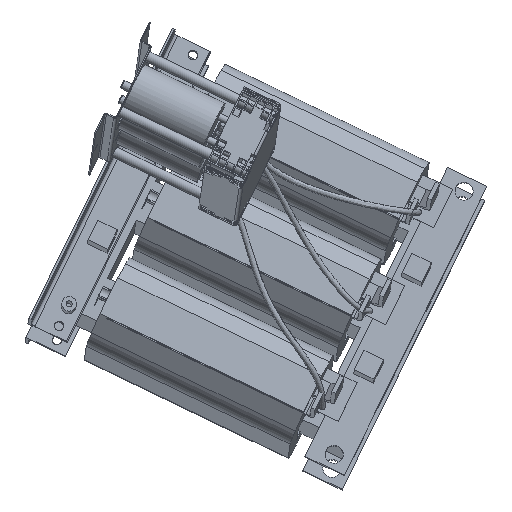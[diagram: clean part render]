
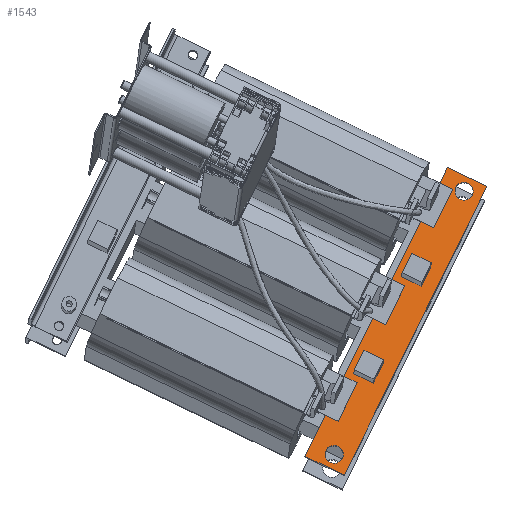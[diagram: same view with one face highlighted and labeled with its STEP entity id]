
A CAD part, front view. The second image highlights one B-rep face of the part: STEP entity #1543.
In plain terms, the highlighted planar face has unit normal (0.028, -0.982, 0.185).
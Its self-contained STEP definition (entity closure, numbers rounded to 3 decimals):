
#450=CARTESIAN_POINT('',(-327.927,-256.373,-188.167));
#451=VERTEX_POINT('',#450);
#458=CARTESIAN_POINT('',(-314.857,-251.02,-161.699));
#459=VERTEX_POINT('',#458);
#460=CARTESIAN_POINT('',(-314.857,-251.02,-161.699));
#461=DIRECTION('',(-0.436,-0.178,-0.882));
#462=VECTOR('',#461,30.);
#463=LINE('',#460,#462);
#464=EDGE_CURVE('',#459,#451,#463,.T.);
#492=CARTESIAN_POINT('',(-341.847,-249.345,-148.71));
#493=VERTEX_POINT('',#492);
#494=CARTESIAN_POINT('',(-341.847,-249.345,-148.71));
#495=DIRECTION('',(0.9,-0.056,-0.433));
#496=VECTOR('',#495,30.);
#497=LINE('',#494,#496);
#498=EDGE_CURVE('',#493,#459,#497,.T.);
#523=CARTESIAN_POINT('',(-354.917,-254.698,-175.178));
#524=VERTEX_POINT('',#523);
#525=CARTESIAN_POINT('',(-354.917,-254.698,-175.178));
#526=DIRECTION('',(0.436,0.178,0.882));
#527=VECTOR('',#526,30.);
#528=LINE('',#525,#527);
#529=EDGE_CURVE('',#524,#493,#528,.T.);
#555=CARTESIAN_POINT('',(-327.927,-256.373,-188.167));
#556=DIRECTION('',(-0.9,0.056,0.433));
#557=VECTOR('',#556,30.);
#558=LINE('',#555,#557);
#559=EDGE_CURVE('',#451,#524,#558,.T.);
#592=CARTESIAN_POINT('',(-276.498,-222.579,-16.373));
#593=VERTEX_POINT('',#592);
#600=CARTESIAN_POINT('',(-289.568,-227.932,-42.841));
#601=VERTEX_POINT('',#600);
#602=CARTESIAN_POINT('',(-289.568,-227.932,-42.841));
#603=DIRECTION('',(0.436,0.178,0.882));
#604=VECTOR('',#603,30.);
#605=LINE('',#602,#604);
#606=EDGE_CURVE('',#601,#593,#605,.T.);
#634=CARTESIAN_POINT('',(-262.578,-229.608,-55.83));
#635=VERTEX_POINT('',#634);
#636=CARTESIAN_POINT('',(-262.578,-229.608,-55.83));
#637=DIRECTION('',(-0.9,0.056,0.433));
#638=VECTOR('',#637,30.0);
#639=LINE('',#636,#638);
#640=EDGE_CURVE('',#635,#601,#639,.T.);
#665=CARTESIAN_POINT('',(-249.508,-224.255,-29.362));
#666=VERTEX_POINT('',#665);
#667=CARTESIAN_POINT('',(-249.508,-224.255,-29.362));
#668=DIRECTION('',(-0.436,-0.178,-0.882));
#669=VECTOR('',#668,30.);
#670=LINE('',#667,#669);
#671=EDGE_CURVE('',#666,#635,#670,.T.);
#697=CARTESIAN_POINT('',(-276.498,-222.579,-16.373));
#698=DIRECTION('',(0.9,-0.056,-0.433));
#699=VECTOR('',#698,30.);
#700=LINE('',#697,#699);
#701=EDGE_CURVE('',#593,#666,#700,.T.);
#1095=CARTESIAN_POINT('',(-370.409,-276.956,-291.108));
#1096=VERTEX_POINT('',#1095);
#1097=CARTESIAN_POINT('',(-381.655,-276.258,-285.696));
#1098=DIRECTION('',(-0.028,0.982,-0.185));
#1099=DIRECTION('',(0.9,-0.056,-0.433));
#1100=AXIS2_PLACEMENT_3D('',#1097,#1098,#1099);
#1101=CIRCLE('',#1100,12.5);
#1102=EDGE_CURVE('',#1096,#1096,#1101,.T.);
#1143=CARTESIAN_POINT('',(-192.659,-204.154,68.849));
#1144=VERTEX_POINT('',#1143);
#1145=CARTESIAN_POINT('',(-203.905,-203.455,74.261));
#1146=DIRECTION('',(-0.028,0.982,-0.185));
#1147=DIRECTION('',(0.9,-0.056,-0.433));
#1148=AXIS2_PLACEMENT_3D('',#1145,#1146,#1147);
#1149=CIRCLE('',#1148,12.5);
#1150=EDGE_CURVE('',#1144,#1144,#1149,.T.);
#1416=CARTESIAN_POINT('',(-421.857,-277.871,-288.187));
#1417=VERTEX_POINT('',#1416);
#1418=CARTESIAN_POINT('',(-226.681,-197.932,107.06));
#1419=VERTEX_POINT('',#1418);
#1420=CARTESIAN_POINT('',(-421.857,-277.871,-288.187));
#1421=DIRECTION('',(0.436,0.178,0.882));
#1422=VECTOR('',#1421,448.0);
#1423=LINE('',#1420,#1422);
#1424=EDGE_CURVE('',#1417,#1419,#1423,.T.);
#1454=CARTESIAN_POINT('',(-172.7,-201.283,81.082));
#1455=VERTEX_POINT('',#1454);
#1456=CARTESIAN_POINT('',(-226.681,-197.932,107.06));
#1457=DIRECTION('',(0.9,-0.056,-0.433));
#1458=VECTOR('',#1457,60.);
#1459=LINE('',#1456,#1458);
#1460=EDGE_CURVE('',#1419,#1455,#1459,.T.);
#1478=CARTESIAN_POINT('',(-367.876,-281.223,-314.165));
#1479=VERTEX_POINT('',#1478);
#1480=CARTESIAN_POINT('',(-172.7,-201.283,81.082));
#1481=DIRECTION('',(-0.436,-0.178,-0.882));
#1482=VECTOR('',#1481,448.0);
#1483=LINE('',#1480,#1482);
#1484=EDGE_CURVE('',#1455,#1479,#1483,.T.);
#1502=CARTESIAN_POINT('',(-367.876,-281.223,-314.165));
#1503=DIRECTION('',(-0.9,0.056,0.433));
#1504=VECTOR('',#1503,60.);
#1505=LINE('',#1502,#1504);
#1506=EDGE_CURVE('',#1479,#1417,#1505,.T.);
#1514=CARTESIAN_POINT('',(-297.278,-239.577,-103.553));
#1515=DIRECTION('',(0.028,-0.982,0.185));
#1516=DIRECTION('',(0.436,0.178,0.882));
#1517=AXIS2_PLACEMENT_3D('',#1514,#1515,#1516);
#1518=PLANE('',#1517);
#1519=ORIENTED_EDGE('',*,*,#1424,.F.);
#1520=ORIENTED_EDGE('',*,*,#1506,.F.);
#1521=ORIENTED_EDGE('',*,*,#1484,.F.);
#1522=ORIENTED_EDGE('',*,*,#1460,.F.);
#1523=EDGE_LOOP('',(#1519,#1520,#1521,#1522));
#1524=FACE_OUTER_BOUND('',#1523,.T.);
#1525=ORIENTED_EDGE('',*,*,#464,.T.);
#1526=ORIENTED_EDGE('',*,*,#559,.T.);
#1527=ORIENTED_EDGE('',*,*,#529,.T.);
#1528=ORIENTED_EDGE('',*,*,#498,.T.);
#1529=EDGE_LOOP('',(#1525,#1526,#1527,#1528));
#1530=FACE_BOUND('',#1529,.T.);
#1531=ORIENTED_EDGE('',*,*,#606,.T.);
#1532=ORIENTED_EDGE('',*,*,#701,.T.);
#1533=ORIENTED_EDGE('',*,*,#671,.T.);
#1534=ORIENTED_EDGE('',*,*,#640,.T.);
#1535=EDGE_LOOP('',(#1531,#1532,#1533,#1534));
#1536=FACE_BOUND('',#1535,.T.);
#1537=ORIENTED_EDGE('',*,*,#1102,.T.);
#1538=EDGE_LOOP('',(#1537));
#1539=FACE_BOUND('',#1538,.T.);
#1540=ORIENTED_EDGE('',*,*,#1150,.T.);
#1541=EDGE_LOOP('',(#1540));
#1542=FACE_BOUND('',#1541,.T.);
#1543=ADVANCED_FACE('',(#1524,#1530,#1536,#1539,#1542),#1518,.T.);
